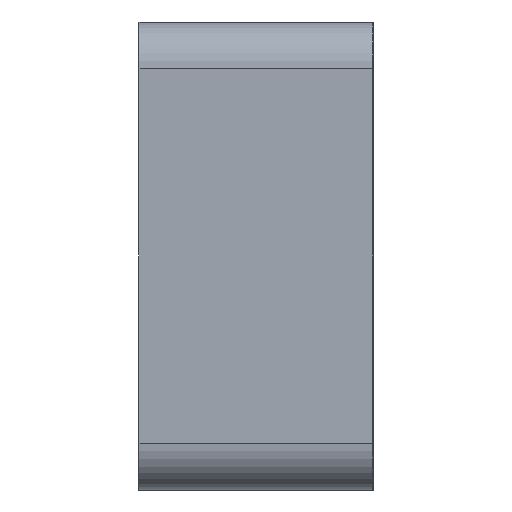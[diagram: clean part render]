
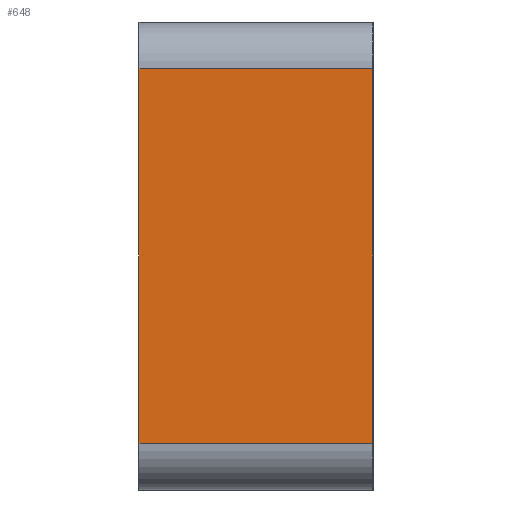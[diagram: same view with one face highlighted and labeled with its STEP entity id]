
A CAD part, left-side view. The second image highlights one B-rep face of the part: STEP entity #648.
In plain terms, the highlighted planar face has unit normal (-1, 0, 0).
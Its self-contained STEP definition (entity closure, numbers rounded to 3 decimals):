
#23 = AXIS2_PLACEMENT_3D ( 'NONE', #449, #443, #492 ) ;
#29 = EDGE_CURVE ( 'NONE', #303, #275, #161, .T. ) ;
#50 = EDGE_CURVE ( 'NONE', #223, #232, #184, .T. ) ;
#52 = EDGE_CURVE ( 'NONE', #223, #275, #154, .T. ) ;
#89 = EDGE_CURVE ( 'NONE', #232, #303, #127, .T. ) ;
#127 = LINE ( 'NONE', #543, #290 ) ;
#154 = LINE ( 'NONE', #589, #346 ) ;
#161 = LINE ( 'NONE', #550, #172 ) ;
#165 = VECTOR ( 'NONE', #583, 1000. ) ;
#172 = VECTOR ( 'NONE', #640, 1000. ) ;
#184 = LINE ( 'NONE', #592, #165 ) ;
#223 = VERTEX_POINT ( 'NONE', #427 ) ;
#232 = VERTEX_POINT ( 'NONE', #421 ) ;
#275 = VERTEX_POINT ( 'NONE', #450 ) ;
#290 = VECTOR ( 'NONE', #542, 1000. ) ;
#299 = EDGE_LOOP ( 'NONE', ( #305, #313, #311, #309 ) ) ;
#303 = VERTEX_POINT ( 'NONE', #513 ) ;
#305 = ORIENTED_EDGE ( 'NONE', *, *, #52, .F. ) ;
#309 = ORIENTED_EDGE ( 'NONE', *, *, #29, .T. ) ;
#311 = ORIENTED_EDGE ( 'NONE', *, *, #89, .T. ) ;
#313 = ORIENTED_EDGE ( 'NONE', *, *, #50, .T. ) ;
#346 = VECTOR ( 'NONE', #586, 1000. ) ;
#386 = FACE_OUTER_BOUND ( 'NONE', #299, .T. ) ;
#421 = CARTESIAN_POINT ( 'NONE',  ( -40., 0., -4. ) ) ;
#422 = PLANE ( 'NONE',  #23 ) ;
#427 = CARTESIAN_POINT ( 'NONE',  ( -40., 5., -4. ) ) ;
#443 = DIRECTION ( 'NONE',  ( 1., 0., 0. ) ) ;
#449 = CARTESIAN_POINT ( 'NONE',  ( -40., 5., 5. ) ) ;
#450 = CARTESIAN_POINT ( 'NONE',  ( -40., 5., 4. ) ) ;
#492 = DIRECTION ( 'NONE',  ( 0., 0., -1. ) ) ;
#513 = CARTESIAN_POINT ( 'NONE',  ( -40., 0., 4. ) ) ;
#542 = DIRECTION ( 'NONE',  ( 0., 0., 1. ) ) ;
#543 = CARTESIAN_POINT ( 'NONE',  ( -40., 0., 5. ) ) ;
#550 = CARTESIAN_POINT ( 'NONE',  ( -40., 5., 4. ) ) ;
#583 = DIRECTION ( 'NONE',  ( 0., -1., 0. ) ) ;
#586 = DIRECTION ( 'NONE',  ( 0., 0., 1. ) ) ;
#589 = CARTESIAN_POINT ( 'NONE',  ( -40., 5., 5. ) ) ;
#592 = CARTESIAN_POINT ( 'NONE',  ( -40., 5., -4. ) ) ;
#640 = DIRECTION ( 'NONE',  ( 0., 1., 0. ) ) ;
#648 = ADVANCED_FACE ( 'NONE', ( #386 ), #422, .F. ) ;
